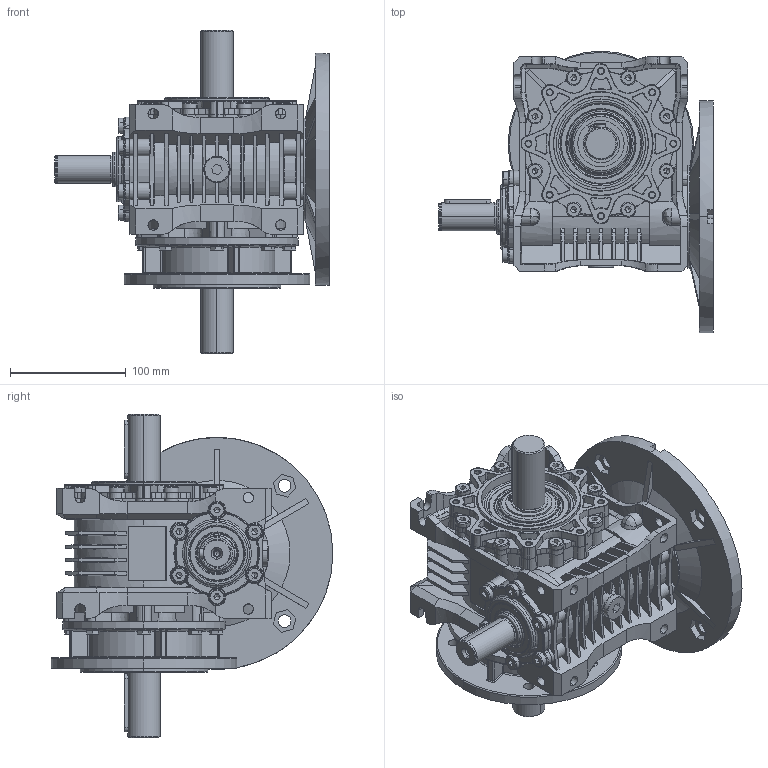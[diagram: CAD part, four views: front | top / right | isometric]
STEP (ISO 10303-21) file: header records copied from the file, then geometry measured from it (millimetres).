
FILE_DESCRIPTION (( 'STEP AP203' ), '1' );
FILE_NAME ('MR-63_200-24_K160-1_WD-1_3D.STEP', '2023-09-26T11:59:15', ( '' ), ( '' ), 'SwSTEP 2.0', 'SolidWorks 2022', '' );
FILE_SCHEMA (( 'CONFIG_CONTROL_DESIGN' ));
Length unit declared in the file: millimetre
Products named in the file (1): MR-63_200-24_K160-1_WD-1_3D
Bounding box: 237 x 243 x 279 mm (x, y, z)
Volume: 2631742.9 mm3; surface area: 462342 mm2
Topology: 1 solids, 81 shells, 4117 faces, 10145 edges, 6208 vertices
Faces by surface type: plane 1474, cone 898, cylinder 858, torus 400, bspline 334, sphere 153
Entity records: 130241 total; most frequent: CARTESIAN_POINT 36012, ORIENTED_EDGE 19982, DIRECTION 19745, EDGE_CURVE 9991, AXIS2_PLACEMENT_3D 7749, VERTEX_POINT 6186, EDGE_LOOP 4347, VECTOR 4247
